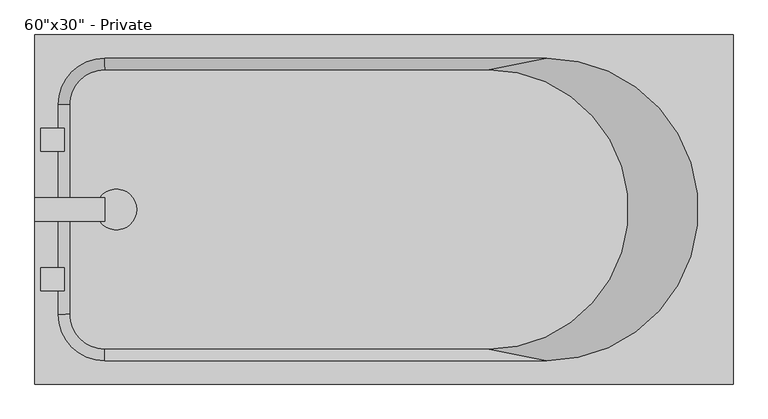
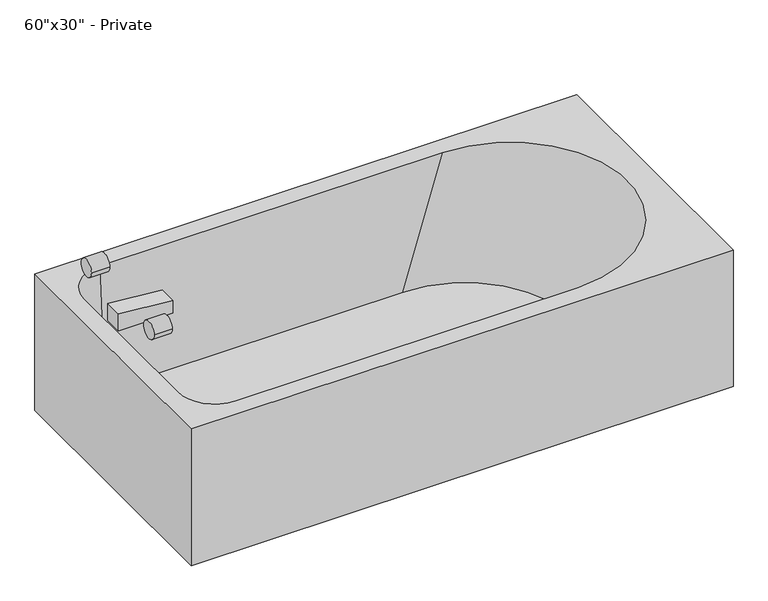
"""IFC4 building model written with IfcOpenShell, lengths in millimetres: flow terminal geometry."""

from ifc_helpers import new_model, si_unit, point, frame, frame_2d, origin, origin_with_axes, place, context, project, spatial, polyline, circle_curve, trimmed, segment, composite_curve, outline, extrude, source, transform, mapped, element, save
from ifc_brep_helpers import plane_surface, revolved_surface, spline_surface, advanced_brep


def flow_terminal_ef44dd1b(model_context):
    return source(origin(), model_context, "Body", "SolidModel", [
        extrude(outline(composite_curve([segment(trimmed(circle_curve(frame_2d((177.8, 381.0)), 44.45), [point((133.35, 381.0))], [point((222.25, 381.0))], False, "CARTESIAN"), True, "CONTINUOUS"), segment(trimmed(circle_curve(frame_2d((177.8, 381.0)), 44.45), [point((222.25, 381.0))], [point((133.35, 381.0))], False, "CARTESIAN"), True, "CONTINUOUS")], self_intersect=False)), origin_with_axes(), (0.0, 0.0, 1.0), 50.8),
        advanced_brep(
        [(1524.0, 0.0, 406.4), (1524.0, 762.0, 406.4), (0.0, 762.0, 406.4), (0.0, 0.0, 406.4), (152.4, 711.2, 406.4), (1117.6, 711.2, 406.4), (1117.6, 50.8, 406.4), (152.4, 50.8, 406.4), (50.8, 152.4, 406.4), (50.8, 609.6, 406.4), (1524.0, 0.0, 0.0), (0.0, 0.0, 0.0), (0.0, 762.0, 0.0), (1524.0, 762.0, 0.0), (133.35, 381.0, 0.0), (222.25, 381.0, 0.0), (990.6, 685.8, 50.8), (152.4, 685.8, 50.8), (76.2, 609.6, 50.8), (76.2, 152.4, 50.8), (152.4, 76.2, 50.8), (990.6, 76.2, 50.8), (222.25, 381.0, 50.8), (133.35, 381.0, 50.8)],
        [
            (0, 1),
            (1, 2),
            (2, 3),
            (3, 0),
            (4, 5),
            (5, 6, circle_curve(frame((1117.6, 381.0, 406.4), z_axis=(0.0, 0.0, -1.0), x_axis=(1.0, 0.0, 0.0)), 330.2)),
            (6, 7),
            (7, 8, circle_curve(frame((152.4, 152.4, 406.4), z_axis=(0.0, 0.0, -1.0), x_axis=(0.0, -1.0, 0.0)), 101.6)),
            (8, 9),
            (9, 4, circle_curve(frame((152.4, 609.6, 406.4), z_axis=(0.0, 0.0, -1.0), x_axis=(-1.0, 0.0, 0.0)), 101.6)),
            (10, 11),
            (11, 12),
            (12, 13),
            (13, 10),
            (14, 15, circle_curve(frame((177.8, 381.0, 0.0), z_axis=(0.0, 0.0, 1.0), x_axis=(1.0, 0.0, 0.0)), 44.45)),
            (15, 14, circle_curve(frame((177.8, 381.0, 0.0), z_axis=(0.0, 0.0, 1.0), x_axis=(1.0, 0.0, 0.0)), 44.45)),
            (0, 10),
            (13, 1),
            (12, 2),
            (11, 3),
            (16, 17),
            (17, 18, circle_curve(frame((152.4, 609.6, 50.8), z_axis=(0.0, 0.0, 1.0), x_axis=(-1.0, 0.0, 0.0)), 76.2)),
            (18, 19),
            (19, 20, circle_curve(frame((152.4, 152.4, 50.8), z_axis=(0.0, 0.0, 1.0), x_axis=(0.0, -1.0, 0.0)), 76.2)),
            (20, 21),
            (21, 16, circle_curve(frame((990.6, 381.0, 50.8), z_axis=(0.0, 0.0, 1.0), x_axis=(1.0, 0.0, 0.0)), 304.8)),
            (22, 23, circle_curve(frame((177.8, 381.0, 50.8), z_axis=(0.0, 0.0, -1.0), x_axis=(1.0, 0.0, 0.0)), 44.45)),
            (23, 22, circle_curve(frame((177.8, 381.0, 50.8), z_axis=(0.0, 0.0, -1.0), x_axis=(1.0, 0.0, 0.0)), 44.45)),
            (21, 6),
            (5, 16),
            (20, 7),
            (19, 8),
            (18, 9),
            (17, 4),
            (22, 15),
            (14, 23),
        ],
        [
            plane_surface(frame((1524.0, 0.0, 406.4), z_axis=(0.0, 0.0, 1.0), x_axis=(0.0, 1.0, 0.0))),
            plane_surface(frame((1524.0, 0.0, 0.0), z_axis=(0.0, 0.0, -1.0), x_axis=(0.0, -1.0, 0.0))),
            plane_surface(frame((1524.0, 0.0, 406.4), z_axis=(1.0, 0.0, 0.0), x_axis=(0.0, 0.0, -1.0))),
            plane_surface(frame((1524.0, 762.0, 406.4), z_axis=(0.0, 1.0, 0.0), x_axis=(0.0, 0.0, -1.0))),
            plane_surface(frame((0.0, 762.0, 406.4), z_axis=(-1.0, 0.0, 0.0), x_axis=(0.0, 0.0, -1.0))),
            plane_surface(frame((0.0, 0.0, 406.4), z_axis=(0.0, -1.0, 0.0), x_axis=(0.0, 0.0, -1.0))),
            plane_surface(frame((406.4, 381.0, 50.8), z_axis=(0.0, 0.0, 1.0), x_axis=(0.0, -1.0, 0.0))),
            spline_surface(1, 2, [[(1117.6, 711.2, 406.4), (1447.8, 711.2, 406.4), (1447.8, 381.0, 406.4), (1447.8, 50.799999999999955, 406.4), (1117.6, 50.8, 406.4)], [(990.6, 685.8, 50.8), (1295.4, 685.8, 50.8), (1295.4, 381.0, 50.8), (1295.4, 76.20000000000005, 50.8), (990.6, 76.2, 50.8)]], [2, 2], [3, 2, 3], [0.0, 1.0], [0.0, 1.0, 2.0], weights=[[1.0, 0.7071067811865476, 1.0, 0.7071067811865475, 1.0], [1.0, 0.7071067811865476, 1.0, 0.7071067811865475, 1.0]]),
            plane_surface(frame((635.0, 50.8, 406.4), z_axis=(0.0, 0.9974586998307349, 0.07124704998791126), x_axis=(-1.0, 0.0, 0.0))),
            revolved_surface(polyline([(50.8, 152.4, 406.4000000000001), (76.20000000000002, 152.4, 50.799999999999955)]), (152.4, 152.4, -1016.0), (0.0, 0.0, 1.0)),
            plane_surface(frame((50.8, 381.0, 406.4), z_axis=(0.9974586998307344, 0.0, 0.07124704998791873), x_axis=(0.0, 1.0, 0.0))),
            revolved_surface(polyline([(152.4, 711.2, 406.4000000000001), (152.4, 685.8000000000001, 50.799999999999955)]), (152.4, 609.6, -1016.0), (0.0, 0.0, 1.0)),
            plane_surface(frame((635.0, 711.2, 406.4), z_axis=(0.0, -0.9974586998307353, 0.07124704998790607), x_axis=(1.0, 0.0, 0.0))),
            revolved_surface(polyline([(222.25, 381.0, 50.8), (222.25, 381.0, 0.0)]), (177.8, 381.0, 0.0), (0.0, 0.0, 1.0)),
        ],
        [
            (0, [[1, 2, 3, 4], [5, 6, 7, 8, 9, 10]]),
            (1, [[11, 12, 13, 14], [15, 16]]),
            (2, [[-1, 17, -14, 18]]),
            (3, [[-2, -18, -13, 19]]),
            (4, [[-3, -19, -12, 20]]),
            (5, [[-4, -20, -11, -17]]),
            (6, [[21, 22, 23, 24, 25, 26], [27, 28]]),
            (7, [[-26, 29, -6, 30]]),
            (8, [[-25, 31, -7, -29]]),
            (9, [[-24, 32, -8, -31]]),
            (10, [[-23, 33, -9, -32]]),
            (11, [[-22, 34, -10, -33]]),
            (12, [[-21, -30, -5, -34]]),
            (13, [[35, -15, 36, -27]]),
            (13, [[-35, -28, -36, -16]]),
        ],
    ),
        extrude(outline(polyline([(482.6, 0.0), (482.6, 152.4), (520.7, 152.4), (533.4, 0.0), (482.6, 0.0)])), frame((0.0, 355.6, 0.0), z_axis=(0.0, 1.0, 0.0), x_axis=(0.0, 0.0, 1.0)), (0.0, 0.0, 1.0), 50.8),
        extrude(outline(composite_curve([segment(trimmed(circle_curve(frame_2d((533.4, 558.8)), 25.4), [point((508.0, 558.8))], [point((558.8, 558.8))], False, "CARTESIAN"), True, "CONTINUOUS"), segment(trimmed(circle_curve(frame_2d((533.4, 558.8)), 25.4), [point((558.8, 558.8))], [point((508.0, 558.8))], False, "CARTESIAN"), True, "CONTINUOUS")], self_intersect=False)), frame((12.7, 0.0, 0.0), z_axis=(1.0, 0.0, 0.0), x_axis=(0.0, 1.0, 0.0)), (0.0, 0.0, 1.0), 50.8),
        extrude(outline(composite_curve([segment(trimmed(circle_curve(frame_2d((228.6, 558.8)), 25.4), [point((203.2, 558.8))], [point((254.0, 558.8))], False, "CARTESIAN"), True, "CONTINUOUS"), segment(trimmed(circle_curve(frame_2d((228.6, 558.8)), 25.4), [point((254.0, 558.8))], [point((203.2, 558.8))], False, "CARTESIAN"), True, "CONTINUOUS")], self_intersect=False)), frame((12.7, 0.0, 0.0), z_axis=(1.0, 0.0, 0.0), x_axis=(0.0, 1.0, 0.0)), (0.0, 0.0, 1.0), 50.8),
    ])


if __name__ == "__main__":
    model = new_model("IFC4")
    model_context = context("Model", 3, world=origin())
    ifc_project = project(units=[si_unit("LENGTHUNIT", "METRE", prefix="MILLI")], contexts=[model_context])
    site = spatial("IfcSite", under=ifc_project)
    building = spatial("IfcBuilding", under=site)
    placement = place(None, origin())
    flow_terminal_shape = flow_terminal_ef44dd1b(model_context)
    element("IfcFlowTerminal", 1, ObjectType="Bath_Tubrfa_5482 : 60\"x30\" - Private", at=placement, inside=building, context=model_context, shape_type="MappedRepresentation", body=[
        mapped(flow_terminal_shape, transform((0.0, 0.0, 0.0), x_axis=(1.0, 0.0, 0.0), y_axis=(0.0, 1.0, 0.0), z_axis=(0.0, 0.0, 1.0))),
    ])
    save(model, "model.ifc")
